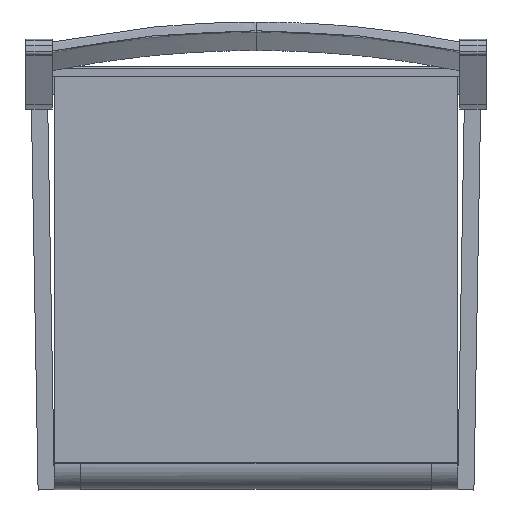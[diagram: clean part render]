
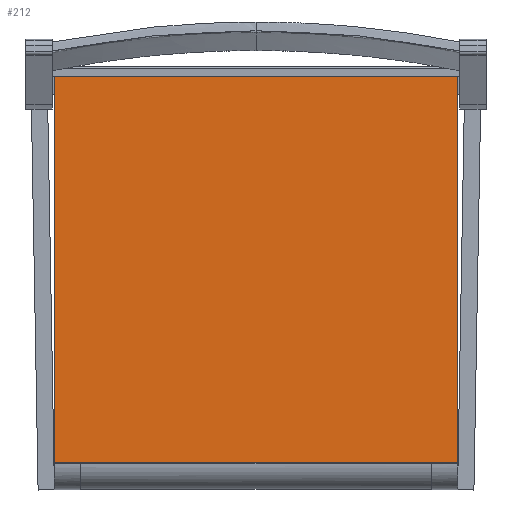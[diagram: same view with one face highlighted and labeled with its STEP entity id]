
A CAD part, top view. The second image highlights one B-rep face of the part: STEP entity #212.
In plain terms, the highlighted planar face has unit normal (0, 0, 1).
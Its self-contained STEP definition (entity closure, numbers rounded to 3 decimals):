
#62=B_SPLINE_CURVE_WITH_KNOTS('',1,(#3906,#3907),.UNSPECIFIED.,.F.,.F.,
(2,2),(0.,379.),.UNSPECIFIED.);
#66=B_SPLINE_CURVE_WITH_KNOTS('',1,(#3914,#3915),.UNSPECIFIED.,.F.,.F.,
(2,2),(0.,395.),.UNSPECIFIED.);
#69=B_SPLINE_CURVE_WITH_KNOTS('',1,(#3920,#3921),.UNSPECIFIED.,.F.,.F.,
(2,2),(0.,379.),.UNSPECIFIED.);
#71=B_SPLINE_CURVE_WITH_KNOTS('',1,(#3924,#3925),.UNSPECIFIED.,.F.,.F.,
(2,2),(0.,395.),.UNSPECIFIED.);
#212=ADVANCED_FACE('',(#324),#1628,.T.);
#324=FACE_OUTER_BOUND('',#436,.T.);
#436=EDGE_LOOP('',(#863,#864,#865,#866));
#863=ORIENTED_EDGE('',*,*,#1162,.F.);
#864=ORIENTED_EDGE('',*,*,#1166,.F.);
#865=ORIENTED_EDGE('',*,*,#1169,.F.);
#866=ORIENTED_EDGE('',*,*,#1171,.F.);
#1162=EDGE_CURVE('',#1526,#1527,#62,.T.);
#1166=EDGE_CURVE('',#1530,#1526,#66,.T.);
#1169=EDGE_CURVE('',#1532,#1530,#69,.T.);
#1171=EDGE_CURVE('',#1527,#1532,#71,.T.);
#1526=VERTEX_POINT('',#3897);
#1527=VERTEX_POINT('',#3898);
#1530=VERTEX_POINT('',#3901);
#1532=VERTEX_POINT('',#3903);
#1628=PLANE('',#1845);
#1845=AXIS2_PLACEMENT_3D('',#3894,#1957,$);
#1957=DIRECTION('',(0.,0.,1.));
#3894=CARTESIAN_POINT('',(-237.12,-240.817,460.009));
#3897=CARTESIAN_POINT('',(197.5,176.203,460.009));
#3898=CARTESIAN_POINT('',(197.5,-202.797,460.009));
#3901=CARTESIAN_POINT('',(-197.5,176.203,460.009));
#3903=CARTESIAN_POINT('',(-197.5,-202.797,460.009));
#3906=CARTESIAN_POINT('',(197.5,176.203,460.009));
#3907=CARTESIAN_POINT('',(197.5,-202.797,460.009));
#3914=CARTESIAN_POINT('',(-197.5,176.203,460.009));
#3915=CARTESIAN_POINT('',(197.5,176.203,460.009));
#3920=CARTESIAN_POINT('',(-197.5,-202.797,460.009));
#3921=CARTESIAN_POINT('',(-197.5,176.203,460.009));
#3924=CARTESIAN_POINT('',(197.5,-202.797,460.009));
#3925=CARTESIAN_POINT('',(-197.5,-202.797,460.009));
